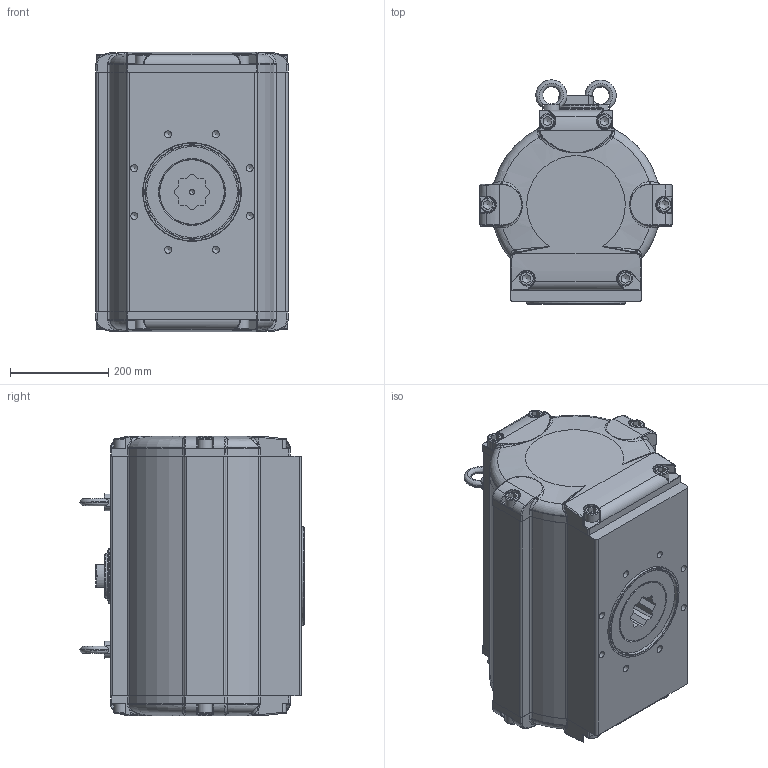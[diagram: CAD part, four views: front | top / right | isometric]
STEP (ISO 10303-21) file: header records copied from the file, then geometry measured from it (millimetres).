
FILE_DESCRIPTION((''),'2;1');
FILE_NAME('Y:\DOKUMENTATION ANTRIEBSPROGRAMM\AKTUELLES ANTRIEBSPROGRAMM\BR03_SAD_SAF_90°_Standard\STEP-Dateien\50\SAD 50 BE03.stp','2018-09-10T08:54:45',('mkl'),(''),'Autodesk Inventor 2013','Autodesk Inventor 2013','');
FILE_SCHEMA(('AUTOMOTIVE_DESIGN { 1 0 10303 214 1 1 1 1 }'));
Length unit declared in the file: millimetre
Products named in the file (1): ENG-040010_Shrinkwrap_1
Bounding box: 390 x 455 x 567 mm (x, y, z)
Surface area: 1218127.3 mm2 (no closed solid volume)
Topology: 0 solids, 46 shells, 570 faces, 2231 edges, 1623 vertices
Faces by surface type: plane 217, cylinder 146, bspline 130, torus 41, cone 36
Full cylindrical faces by diameter (mm): 4.917 x4, 10 x2, 14.376 x8, 18.631 x2, 30 x12, 70 x1, 89.8 x1, 110 x1, 130 x1, 190 x1, 199.6 x1
Entity records: 35042 total; most frequent: CARTESIAN_POINT 17859, ORIENTED_EDGE 3108, DIRECTION 3042, EDGE_CURVE 2110, VERTEX_POINT 1586, AXIS2_PLACEMENT_3D 1205, EDGE_LOOP 708, CIRCLE 680
